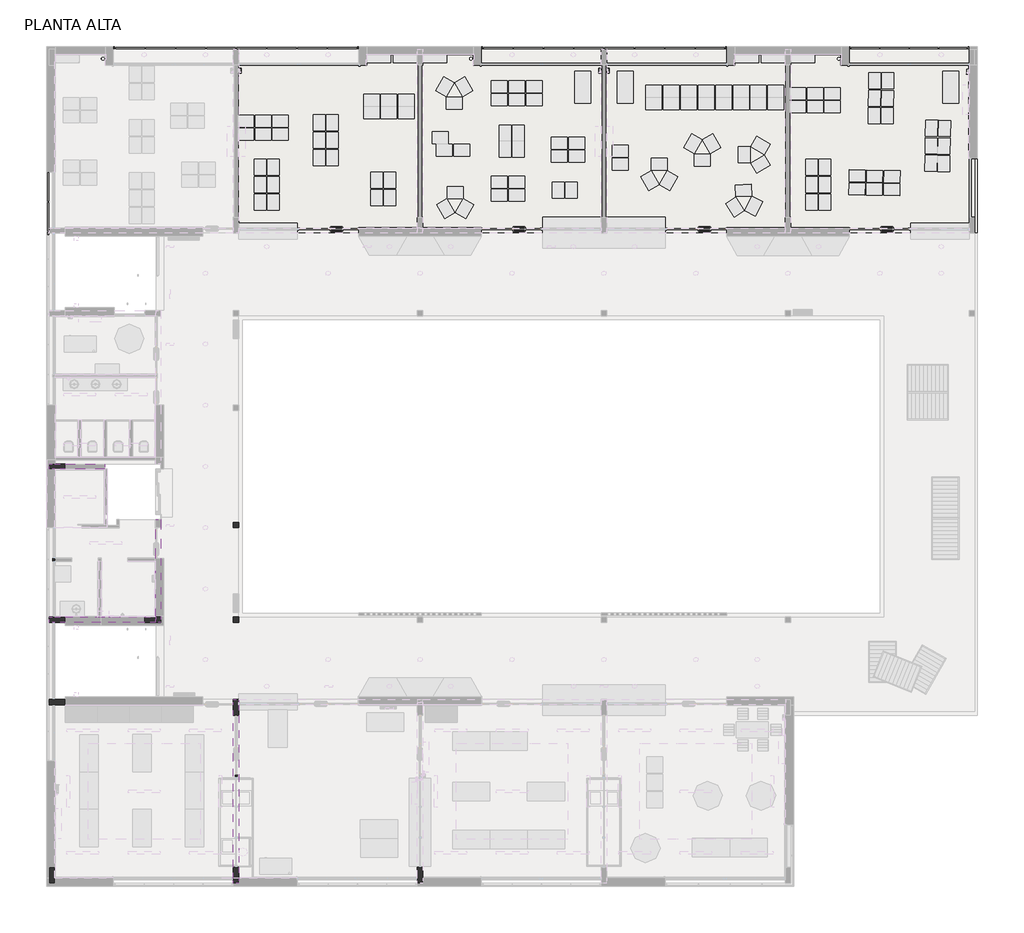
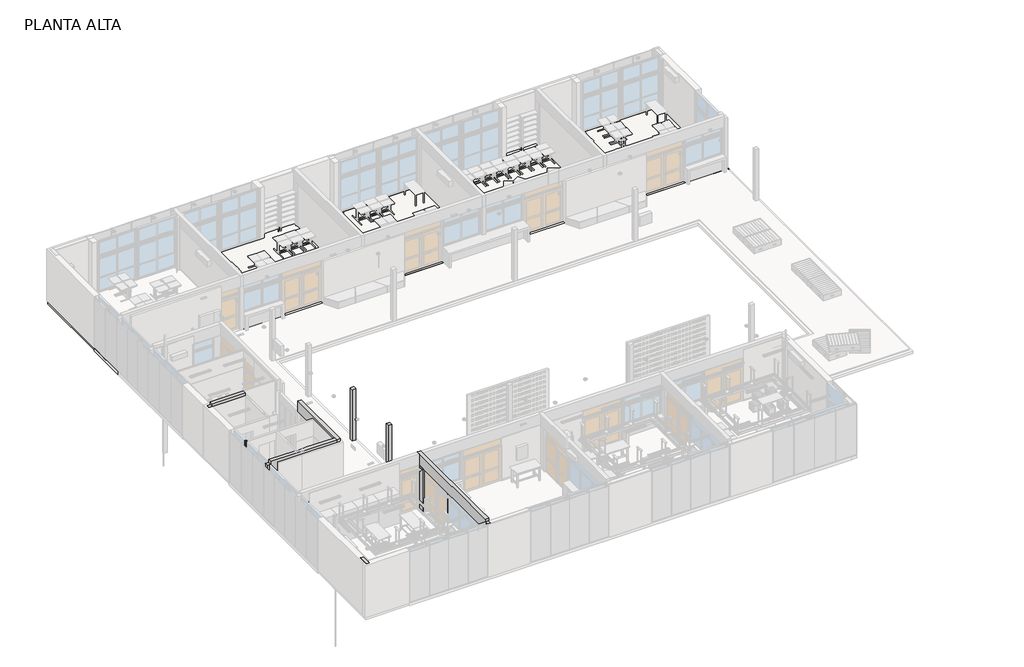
# One storey, part 8 of 14: 12 columns, 6 slabs, 4 beams.
"""IFC4 building model written with IfcOpenShell, lengths in millimetres."""

from ifc_helpers import new_model, si_unit, point, frame, frame_2d, origin, place, context, project, spatial, polyline, circle_curve, trimmed, segment, composite_curve, outline, extrude, faceted_brep, element, save
from ifc_brep_helpers import plane_surface, cylinder_surface, revolved_surface, advanced_brep

model = new_model("IFC4")

# Units and contexts
model_context = context("Model", 3, world=origin())
ifc_project = project(units=[si_unit("LENGTHUNIT", "METRE", prefix="MILLI")], contexts=[model_context])

# Site, building, storey
site = spatial("IfcSite", under=ifc_project)
building = spatial("IfcBuilding", under=site)
storey = spatial("IfcBuildingStorey", under=building, Name="PLANTA ALTA", Elevation=3310.0)

# Beams
placement = place(None, origin())
element("IfcBeam", 1, ObjectType="ARES-I-HA-Viga rectangular-PET : Viga-20x66cm-PET", at=placement, inside=storey, context=model_context, shape_type="Brep", body=[
    faceted_brep([(10288.7173694, 7220.0804035, 5910.0), (10088.7173694, 7220.0804035, 5910.0), (10088.7173694, 7220.0804035, 6410.0), (10088.7173694, 7220.0804035, 6570.0), (10288.7173694, 7220.0804035, 6570.0), (10288.7173694, 7220.0804035, 6410.0), (10088.7173694, 7020.2304035, 6570.0), (10088.7173694, 520.2304035, 6570.0), (10288.7173694, 520.2304035, 6570.0), (10288.7173694, 1302.8495567, 6570.0), (10288.7173694, 1345.2304035, 6570.0), (10288.7173694, 1645.2304035, 6570.0), (10288.7173694, 7020.2304035, 6570.0), (10088.7173694, 7020.2304035, 5910.0), (10088.7173694, 6620.2304035, 5910.0), (10088.7173694, 920.2304035, 5910.0), (10088.7173694, 320.2304035, 5910.0), (10088.7173694, 320.2304035, 6410.0), (10088.7173694, 520.2304035, 6410.0), (10288.7173694, 7020.2304035, 5910.0), (10288.7173694, 6620.2304035, 5910.0), (10288.7173694, 920.2304035, 5910.0), (10288.7173694, 320.2304035, 5910.0), (10288.7173694, 520.2304035, 6410.0), (10288.7173694, 320.2304035, 6410.0)], [[[0, 1, 2, 3, 4, 5]], [[4, 3, 6, 7, 8, 9, 10, 11, 12]], [[1, 13, 14, 15, 16, 17, 18, 7, 6, 3, 2]], [[1, 0, 19, 20, 21, 22, 16, 15, 14, 13]], [[22, 21, 20, 19, 0, 5, 4, 12, 11, 10, 9, 8, 23, 24]], [[16, 22, 24, 17]], [[23, 18, 17, 24]], [[18, 23, 8, 7]]]),
])
element("IfcBeam", 2, ObjectType="ARES-I-HA-Viga rectangular-PET : Viga-20x66cm-PET", at=placement, inside=storey, context=model_context, shape_type="Brep", body=[
    faceted_brep([(7368.7173693, 10120.2304035, 6570.0), (7368.7173693, 13970.2304035, 6570.0), (7168.7173693, 13970.2304035, 6570.0), (7168.7173693, 10320.2304035, 6570.0), (7168.7173693, 10120.2304035, 6570.0), (7168.7173693, 13970.2304035, 5910.0), (7168.7173693, 12520.2304035, 5910.0), (7168.7173693, 10340.2304035, 5910.0), (7168.7173693, 10320.2304035, 5910.0), (7168.7173693, 10120.2304035, 5910.0), (7168.7173693, 10120.2304035, 6410.0), (7168.7173693, 13970.2304035, 6410.0), (7368.7173693, 13970.2304035, 5910.0), (7368.7173693, 12520.2304035, 5910.0), (7368.7173693, 10340.2304035, 5910.0), (7368.7173693, 10320.2304035, 5910.0), (7368.7173693, 10120.2304035, 5910.0), (7368.7173693, 10120.2304035, 6410.0), (7368.7173693, 13970.2304035, 6410.0)], [[[0, 1, 2, 3, 4]], [[5, 6, 7, 8, 9, 10, 4, 3, 2, 11]], [[9, 8, 7, 6, 5, 12, 13, 14, 15, 16]], [[1, 0, 17, 16, 15, 14, 13, 12, 18]], [[0, 4, 10, 9, 16, 17]], [[12, 5, 11, 2, 1, 18]]]),
])
element("IfcBeam", 3, ObjectType="ARES-I-HA-Viga rectangular-PET : Viga-20x66cm-PET", at=placement, inside=storey, context=model_context, shape_type="Brep", body=[
    faceted_brep([(3388.7173693, 10120.2304035, 6570.0), (7168.7173693, 10120.2304035, 6570.0), (7168.7173693, 10320.2304035, 6570.0), (5538.7212045, 10320.2304035, 6570.0), (5418.7212045, 10320.2304035, 6570.0), (5018.7212045, 10320.2304035, 6570.0), (4898.7212045, 10320.2304035, 6570.0), (3388.7173693, 10320.2304035, 6570.0), (3188.7173693, 10120.2304035, 6410.0), (3188.7173693, 10120.2304035, 5910.0), (3788.7173693, 10120.2304035, 5910.0), (5113.7173694, 10120.2304035, 5910.0), (6768.7173693, 10120.2304035, 5910.0), (7168.7173693, 10120.2304035, 5910.0), (3388.7173693, 10120.2304035, 6410.0), (3188.7173693, 10320.2304035, 5910.0), (3788.7173693, 10320.2304035, 5910.0), (5113.7173694, 10320.2304035, 5910.0), (6768.7173693, 10320.2304035, 5910.0), (7168.7173693, 10320.2304035, 5910.0), (3188.7173693, 10320.2304035, 6410.0), (3388.7173693, 10320.2304035, 6410.0), (7168.7173693, 10320.2304035, 6410.0)], [[[0, 1, 2, 3, 4, 5, 6, 7]], [[8, 9, 10, 11, 12, 13, 1, 0, 14]], [[9, 15, 16, 17, 18, 19, 13, 12, 11, 10]], [[15, 20, 21, 7, 6, 5, 4, 3, 2, 22, 19, 18, 17, 16]], [[1, 13, 19, 22, 2]], [[15, 9, 8, 20]], [[14, 21, 20, 8]], [[21, 14, 0, 7]]]),
])
element("IfcBeam", 4, ObjectType="ARES-I-HA-Viga rectangular-PET : Viga-20x66cm-PET", at=placement, inside=storey, context=model_context, shape_type="Brep", body=[
    faceted_brep([(3388.7173693, 15870.2304035, 6570.0), (5268.7173693, 15870.2304035, 6570.0), (5268.7173693, 16070.2304035, 6570.0), (3388.7173693, 16070.2304035, 6570.0), (3188.7173693, 15870.2304035, 6410.0), (3188.7173693, 15870.2304035, 5910.0), (3788.7173693, 15870.2304035, 5910.0), (5268.7173693, 15870.2304035, 5910.0), (5268.7173693, 15870.2304035, 6410.0), (3388.7173693, 15870.2304035, 6410.0), (3188.7173693, 16070.2304035, 5910.0), (3788.7173693, 16070.2304035, 5910.0), (5268.7173693, 16070.2304035, 5910.0), (5268.7173693, 16040.2304035, 5910.0), (3188.7173693, 16070.2304035, 6410.0), (3388.7173693, 16070.2304035, 6410.0)], [[[0, 1, 2, 3]], [[4, 5, 6, 7, 8, 1, 0, 9]], [[5, 10, 11, 12, 13, 7, 6]], [[10, 14, 15, 3, 2, 12, 11]], [[7, 13, 12, 2, 1, 8]], [[10, 5, 4, 14]], [[9, 15, 14, 4]], [[15, 9, 0, 3]]]),
])

# Columns
element("IfcColumn", 5, ObjectType="Parante aluminio : Parante aluminio 75x75 mm", at=placement, inside=storey, context=model_context, shape_type="SweptSolid", body=[
    extrude(outline(polyline([(10226.2173694, 4395.2304035), (10226.2173694, 4320.2304035), (10151.2173694, 4320.2304035), (10151.2173694, 4395.2304035), (10226.2173694, 4395.2304035)])), frame((0.0, 0.0, 3310.0), z_axis=(0.0, 0.0, 1.0), x_axis=(1.0, 0.0, 0.0)), (0.0, 0.0, 1.0), 2650.0),
])
element("IfcColumn", 6, ObjectType="Parante aluminio : Parante aluminio 100x100 mm", at=placement, inside=storey, context=model_context, shape_type="Brep", body=[
    faceted_brep([(3403.7173693, 12520.2304035, 3310.0), (3403.7173693, 12420.2304035, 3310.0), (3303.7173693, 12420.2304035, 3310.0), (3303.7173693, 12520.2304035, 3310.0), (3403.7173693, 12520.2304035, 6420.0), (3403.7173693, 12420.2304035, 6420.0), (3403.7173693, 12420.2304035, 6410.0), (3403.7173693, 12420.2304035, 6400.0), (3403.7173693, 12520.2304035, 6410.0), (3303.7173693, 12420.2304035, 6420.0), (3303.7173693, 12520.2304035, 6420.0)], [[[0, 1, 2, 3]], [[4, 5, 6, 7, 1, 0, 8]], [[5, 9, 2, 1, 7, 6]], [[9, 10, 3, 2]], [[10, 4, 8, 0, 3]], [[4, 10, 9, 5]]]),
])
element("IfcColumn", 7, ObjectType="PIES-RECT-HA-PET : Pilar HA-20x20cm-PET", at=placement, inside=storey, context=model_context, shape_type="SweptSolid", body=[
    extrude(outline(polyline([(10288.7173693, 10320.2304035), (10288.7173693, 10120.2304035), (10088.7173693, 10120.2304035), (10088.7173693, 10320.2304035), (10288.7173693, 10320.2304035)])), frame((0.0, 0.0, 3260.0), z_axis=(0.0, 0.0, 1.0), x_axis=(1.0, 0.0, 0.0)), (0.0, 0.0, 1.0), 3150.0),
])
element("IfcColumn", 8, ObjectType="PIES-RECT-HA-PET : Pilar HA-20x20cm-PET", at=placement, inside=storey, context=model_context, shape_type="SweptSolid", body=[
    extrude(outline(polyline([(10288.7173693, 13870.2304035), (10288.7173693, 13670.2304035), (10088.7173693, 13670.2304035), (10088.7173693, 13870.2304035), (10288.7173693, 13870.2304035)])), frame((0.0, 0.0, 3260.0), z_axis=(0.0, 0.0, 1.0), x_axis=(1.0, 0.0, 0.0)), (0.0, 0.0, 1.0), 3150.0),
])
element("IfcColumn", 9, ObjectType="PIES-RECT-HA-PET : Pilar HA-20x60cm-PET", at=placement, inside=storey, context=model_context, shape_type="Brep", body=[
    faceted_brep([(10288.7173694, 920.2304035, 5910.0), (10088.7173694, 920.2304035, 5910.0), (10088.7173694, 320.2304035, 5910.0), (10288.7173694, 320.2304035, 5910.0), (10288.7173694, 920.2304035, 3260.0), (10288.7173694, 535.2304035, 3260.0), (10288.7173694, 520.2304035, 3260.0), (10288.7173694, 320.2304035, 3260.0), (10088.7173694, 320.2304035, 3260.0), (10088.7173694, 920.2304035, 3260.0), (10088.7173694, 320.2304035, 3760.0), (10288.7173694, 320.2304035, 3760.0)], [[[0, 1, 2, 3]], [[4, 5, 6, 7, 8, 9]], [[1, 0, 4, 9]], [[2, 1, 9, 8, 10]], [[3, 2, 10, 8, 7, 11]], [[0, 3, 11, 7, 6, 5, 4]]]),
])
element("IfcColumn", 10, ObjectType="PIES-RECT-HA-PET : Pilar HA-20x60cm-PET", at=placement, inside=storey, context=model_context, shape_type="Brep", body=[
    faceted_brep([(17188.7173694, 920.2304035, 5910.0), (16988.7173694, 920.2304035, 5910.0), (16988.7173694, 320.2304035, 5910.0), (17188.7173694, 320.2304035, 5910.0), (17188.7173694, 920.2304035, 3260.0), (17188.7173694, 535.2304035, 3260.0), (17188.7173694, 520.2304035, 3260.0), (17188.7173694, 320.2304035, 3260.0), (16988.7173694, 320.2304035, 3260.0), (16988.7173694, 920.2304035, 3260.0), (16988.7173694, 320.2304035, 3760.0), (17188.7173694, 320.2304035, 3760.0)], [[[0, 1, 2, 3]], [[4, 5, 6, 7, 8, 9]], [[1, 0, 4, 9]], [[2, 1, 9, 8, 10]], [[3, 2, 10, 8, 7, 11]], [[0, 3, 11, 7, 6, 5, 4]]]),
])
element("IfcColumn", 11, ObjectType="PIES-RECT-HA-PET : Pilar HA-20x60cm-PET", at=placement, inside=storey, context=model_context, shape_type="Brep", body=[
    faceted_brep([(10288.7173694, 7220.2304035, 5910.0), (10088.7173694, 7220.2304035, 5910.0), (10088.7173694, 6620.2304035, 5910.0), (10288.7173694, 6620.2304035, 5910.0), (10288.7173694, 7220.2304035, 3260.0), (10288.7173694, 7020.2304035, 3260.0), (10288.7173694, 6620.2304035, 3260.0), (10088.7173694, 6620.2304035, 3260.0), (10088.7173694, 7020.2304035, 3260.0), (10088.7173694, 7220.2304035, 3260.0)], [[[0, 1, 2, 3]], [[4, 5, 6, 7, 8, 9]], [[1, 0, 4, 9]], [[2, 1, 9, 8, 7]], [[3, 2, 7, 6]], [[0, 3, 6, 5, 4]]]),
])
element("IfcColumn", 12, ObjectType="PIES-RECT-HA-PET : Pilar HA-20x60cm-PET", at=placement, inside=storey, context=model_context, shape_type="Brep", body=[
    faceted_brep([(3388.7173693, 920.2304035, 6410.0), (3188.7173693, 920.2304035, 6410.0), (3188.7173693, 535.2304035, 6410.0), (3188.7173693, 320.2304035, 6410.0), (3388.7173693, 320.2304035, 6410.0), (3388.7173693, 520.2304035, 6410.0), (3388.7173693, 535.2304035, 6410.0), (3388.7173693, 920.2304035, 3260.0), (3388.7173693, 535.2304035, 3260.0), (3388.7173693, 520.2304035, 3260.0), (3388.7173693, 320.2304035, 3260.0), (3188.7173693, 320.2304035, 3260.0), (3188.7173693, 535.2304035, 3260.0), (3188.7173693, 920.2304035, 3260.0), (3388.7173693, 320.2304035, 3760.0)], [[[0, 1, 2, 3, 4, 5, 6]], [[7, 8, 9, 10, 11, 12, 13]], [[1, 0, 7, 13]], [[3, 2, 1, 13, 12, 11]], [[4, 3, 11, 10, 14]], [[0, 6, 5, 4, 14, 10, 9, 8, 7]]]),
])
element("IfcColumn", 13, ObjectType="PIES-RECT-HA-PET : Pilar HA-60x20cm-PET", at=placement, inside=storey, context=model_context, shape_type="Brep", body=[
    faceted_brep([(7368.7173693, 10320.2304035, 5910.0), (7168.7173693, 10320.2304035, 5910.0), (6768.7173693, 10320.2304035, 5910.0), (6768.7173693, 10120.2304035, 5910.0), (7368.7173693, 10120.2304035, 5910.0), (7368.7173693, 10320.2304035, 3260.0), (7368.7173693, 10120.2304035, 3260.0), (6768.7173693, 10120.2304035, 3260.0), (6768.7173693, 10320.2304035, 3260.0)], [[[0, 1, 2, 3, 4]], [[5, 6, 7, 8]], [[2, 1, 0, 5, 8]], [[3, 2, 8, 7]], [[4, 3, 7, 6]], [[0, 4, 6, 5]]]),
])
element("IfcColumn", 14, ObjectType="PIES-RECT-HA-PET : Pilar HA-60x20cm-PET", at=placement, inside=storey, context=model_context, shape_type="SweptSolid", body=[
    extrude(outline(polyline([(3788.7173693, 7220.2304035), (3788.7173693, 7020.2304035), (3188.7173693, 7020.2304035), (3188.7173693, 7220.2304035), (3788.7173693, 7220.2304035)])), frame((0.0, 0.0, 3260.0), z_axis=(0.0, 0.0, 1.0), x_axis=(1.0, 0.0, 0.0)), (0.0, 0.0, 1.0), 2650.0),
])
element("IfcColumn", 15, ObjectType="PIES-RECT-HA-PET : Pilar HA-60x20cm-PET", at=placement, inside=storey, context=model_context, shape_type="Brep", body=[
    faceted_brep([(3788.7173693, 10320.2304035, 5910.0), (3188.7173693, 10320.2304035, 5910.0), (3188.7173693, 10120.2304035, 5910.0), (3788.7173693, 10120.2304035, 5910.0), (3788.7173693, 10320.2304035, 3260.0), (3788.7173693, 10120.2304035, 3260.0), (3388.7173693, 10120.2304035, 3260.0), (3188.7173693, 10120.2304035, 3260.0), (3188.7173693, 10320.2304035, 3260.0), (3388.7173693, 10320.2304035, 3260.0)], [[[0, 1, 2, 3]], [[4, 5, 6, 7, 8, 9]], [[1, 0, 4, 9, 8]], [[2, 1, 8, 7]], [[3, 2, 7, 6, 5]], [[0, 3, 5, 4]]]),
])
element("IfcColumn", 16, ObjectType="PIES-RECT-HA-PET : Pilar HA-60x20cm-PET", at=placement, inside=storey, context=model_context, shape_type="Brep", body=[
    faceted_brep([(3788.7173693, 16070.2304035, 5910.0), (3188.7173693, 16070.2304035, 5910.0), (3188.7173693, 15870.2304035, 5910.0), (3788.7173693, 15870.2304035, 5910.0), (3788.7173693, 16040.2304035, 5910.0), (3788.7173693, 16070.2304035, 3260.0), (3788.7173693, 16040.2304035, 3260.0), (3788.7173693, 15870.2304035, 3260.0), (3403.7173694, 15870.2304035, 3260.0), (3388.7173693, 15870.2304035, 3260.0), (3188.7173693, 15870.2304035, 3260.0), (3188.7173693, 16070.2304035, 3260.0), (3388.7173693, 16070.2304035, 3260.0), (3403.7173694, 16070.2304035, 3260.0)], [[[0, 1, 2, 3, 4]], [[5, 6, 7, 8, 9, 10, 11, 12, 13]], [[1, 0, 5, 13, 12, 11]], [[2, 1, 11, 10]], [[3, 2, 10, 9, 8, 7]], [[0, 4, 3, 7, 6, 5]]]),
])

# Slabs
element("IfcSlab", 17, ObjectType="C20 MONOLITICO 30x30 5cm", at=placement, inside=storey, context=model_context, shape_type="SweptSolid", body=[
    extrude(outline(polyline([(15088.7173693, 31430.2304035), (16988.7173693, 31430.2304035), (16988.7173693, 31020.2304035), (17188.7173694, 31020.2304035), (17188.7173694, 31430.2304035), (19088.7173693, 31430.2304035), (19088.7173693, 31020.2304035), (19388.7173693, 31020.2304035), (28888.7173693, 31020.2304035), (28888.7173693, 31430.2304035), (30788.7173693, 31430.2304035), (30788.7173693, 31020.2304035), (30988.7173693, 31020.2304035), (30988.7173693, 31430.2304035), (32888.7173693, 31430.2304035), (32888.7173693, 31020.2304035), (37573.7173693, 31020.2304035), (37673.7173693, 31020.2304035), (37673.7173693, 30900.2304035), (37573.7173693, 30900.2304035), (37573.7173693, 30700.2304035), (37673.7173693, 30700.2304035), (37673.7173693, 27520.2304035), (37688.7173693, 27520.2304035), (37688.7173693, 24720.2304035), (33188.7173693, 24720.2304035), (33188.7173693, 24920.2304035), (30988.7173693, 24920.2304035), (30988.7173693, 25320.2304035), (30788.7173693, 25320.2304035), (30788.7173693, 24920.2304035), (28588.7173693, 24920.2304035), (28588.7173693, 24720.2304035), (24088.7173694, 24720.2304035), (24088.7173694, 25320.2304035), (23888.7173694, 25320.2304035), (23888.7173694, 24720.2304035), (19388.7173694, 24720.2304035), (19388.7173694, 24920.2304035), (17188.7173694, 24920.2304035), (17188.7173694, 25320.2304035), (16988.7173694, 25320.2304035), (16988.7173694, 24920.2304035), (14788.7173694, 24920.2304035), (14788.7173694, 24720.2304035), (10288.7173694, 24720.2304035), (10288.7173694, 25320.2304035), (10123.7173694, 25320.2304035), (10123.7173694, 31020.2304035), (15088.7173693, 31020.2304035), (15088.7173693, 31430.2304035)]), holes=[composite_curve([segment(trimmed(circle_curve(frame_2d((32797.5018286, 31271.4893538)), 50.0), [point((32747.5018286, 31271.4893538))], [point((32847.5018286, 31271.4893538))], True, "CARTESIAN"), True, "CONTINUOUS"), segment(trimmed(circle_curve(frame_2d((32797.5018286, 31271.4893538)), 50.0), [point((32847.5018286, 31271.4893538))], [point((32747.5018286, 31271.4893538))], True, "CARTESIAN"), True, "CONTINUOUS")], self_intersect=False), composite_curve([segment(trimmed(circle_curve(frame_2d((18997.5018286, 31271.4893538)), 50.0), [point((18947.5018286, 31271.4893538))], [point((19047.5018286, 31271.4893538))], True, "CARTESIAN"), True, "CONTINUOUS"), segment(trimmed(circle_curve(frame_2d((18997.5018286, 31271.4893538)), 50.0), [point((19047.5018286, 31271.4893538))], [point((18947.5018286, 31271.4893538))], True, "CARTESIAN"), True, "CONTINUOUS")], self_intersect=False), polyline([(10388.7173694, 30920.2304035), (10288.7173694, 30920.2304035), (10288.7173694, 30720.2304035), (10388.7173694, 30720.2304035), (10388.7173694, 30920.2304035)]), polyline([(23888.7173693, 30920.2304035), (23788.7173693, 30920.2304035), (23788.7173693, 30720.2304035), (23888.7173693, 30720.2304035), (23888.7173693, 30920.2304035)]), polyline([(24188.7173693, 30920.2304035), (24088.7173693, 30920.2304035), (24088.7173693, 30720.2304035), (24188.7173693, 30720.2304035), (24188.7173693, 30920.2304035)])]), frame((0.0, 0.0, 3260.0), z_axis=(0.0, 0.0, 1.0), x_axis=(1.0, 0.0, 0.0)), (0.0, 0.0, 1.0), 50.0),
])
element("IfcSlab", 18, ObjectType="Alisado AyP con hidrófugo", at=placement, inside=storey, context=model_context, shape_type="SweptSolid", body=[
    extrude(outline(polyline([(3260.0, 37688.7173693), (3260.0, 37888.7173694), (3280.0, 37888.7173694), (3310.0, 37763.7173693), (3310.0, 37688.7173693), (3260.0, 37688.7173693)])), frame((0.0, 25320.2304035, 0.0), z_axis=(0.0, 1.0, 0.0), x_axis=(0.0, 0.0, 1.0)), (0.0, 0.0, 1.0), 2200.0),
])
element("IfcSlab", 19, ObjectType="C14 ALISADO DE AyP 5cm", at=placement, inside=storey, context=model_context, shape_type="SweptSolid", body=[
    extrude(outline(polyline([(31620.2304035, 3260.0), (31020.2304035, 3260.0), (31020.2304035, 3310.0), (31095.2304035, 3310.0), (31620.2304035, 3280.0), (31620.2304035, 3260.0)])), frame((19388.7173693, 0.0, 0.0), z_axis=(1.0, 0.0, 0.0), x_axis=(0.0, 1.0, 0.0)), (0.0, 0.0, 1.0), 4500.0),
])
element("IfcSlab", 20, ObjectType="C14 ALISADO DE AyP 5cm", at=placement, inside=storey, context=model_context, shape_type="SweptSolid", body=[
    extrude(outline(polyline([(31620.2304035, 3260.0), (31020.2304035, 3260.0), (31020.2304035, 3310.0), (31095.2304035, 3310.0), (31620.2304035, 3280.0), (31620.2304035, 3260.0)])), frame((24088.7173693, 0.0, 0.0), z_axis=(1.0, 0.0, 0.0), x_axis=(0.0, 1.0, 0.0)), (0.0, 0.0, 1.0), 4500.0),
])
element("IfcSlab", 21, ObjectType="C14 ALISADO DE AyP 5cm", at=placement, inside=storey, context=model_context, shape_type="SweptSolid", body=[
    extrude(outline(polyline([(31620.2304035, 3260.0), (31020.2304035, 3260.0), (31020.2304035, 3310.0), (31095.2304035, 3310.0), (31620.2304035, 3280.0), (31620.2304035, 3260.0)])), frame((33188.7173694, 0.0, 0.0), z_axis=(1.0, 0.0, 0.0), x_axis=(0.0, 1.0, 0.0)), (0.0, 0.0, 1.0), 4500.0),
])
element("IfcSlab", 22, ObjectType="LOSA-INT-HA-16cm-PET", at=placement, inside=storey, context=model_context, shape_type="SolidModel", body=[
    advanced_brep(
    [(14788.7173693, 31730.2304035, 3100.0), (14788.7173693, 31680.2304035, 3100.0), (15088.7173693, 31680.2304035, 3100.0), (19088.7173693, 31680.2304035, 3100.0), (19388.7173693, 31680.2304035, 3100.0), (19388.7173693, 31730.2304035, 3100.0), (28588.7173693, 31730.2304035, 3100.0), (28588.7173693, 31680.2304035, 3100.0), (28888.7173693, 31680.2304035, 3100.0), (30993.7173693, 31680.2304035, 3100.0), (31613.7173693, 31680.2304035, 3100.0), (32878.7173693, 31680.2304035, 3100.0), (33188.7173693, 31680.2304035, 3100.0), (33188.7173693, 31730.2304035, 3100.0), (37688.7173693, 31730.2304035, 3100.0), (37688.7173693, 31680.2304035, 3100.0), (37948.7173693, 31680.2304035, 3100.0), (37948.7173693, 31620.2304035, 3100.0), (37948.7173693, 31020.2304035, 3100.0), (37948.7173693, 27520.2304035, 3100.0), (37998.7173693, 27520.2304035, 3100.0), (37998.7173693, 24720.2304035, 3100.0), (37888.7173693, 24720.2304035, 3100.0), (37888.7173693, 27520.2304035, 3100.0), (37888.7173693, 31020.2304035, 3100.0), (37888.7173693, 31620.2304035, 3100.0), (37688.7173693, 31620.2304035, 3100.0), (37688.7173693, 31220.2304035, 3100.0), (30988.7173693, 31220.2304035, 3100.0), (30988.7173693, 31440.2304035, 3100.0), (30988.7173693, 31620.2304035, 3100.0), (30788.7173693, 31620.2304035, 3100.0), (30788.7173693, 31440.2304035, 3100.0), (30788.7173693, 31220.2304035, 3100.0), (28878.7173693, 31220.2304035, 3100.0), (28588.7173693, 31220.2304035, 3100.0), (24088.7173693, 31220.2304035, 3100.0), (24088.7173693, 31620.2304035, 3100.0), (23888.7173693, 31620.2304035, 3100.0), (23888.7173693, 31220.2304035, 3100.0), (19388.7173693, 31220.2304035, 3100.0), (19098.7173693, 31220.2304035, 3100.0), (17188.7173694, 31220.2304035, 3100.0), (17188.7173694, 31440.2304035, 3100.0), (17188.7173694, 31620.2304035, 3100.0), (16988.7173694, 31620.2304035, 3100.0), (16988.7173694, 31440.2304035, 3100.0), (16988.7173694, 31220.2304035, 3100.0), (15078.7173693, 31220.2304035, 3100.0), (14788.7173693, 31220.2304035, 3100.0), (10288.7173694, 31220.2304035, 3100.0), (10288.7173694, 31620.2304035, 3100.0), (10088.7173694, 31620.2304035, 3100.0), (10088.7173694, 31220.2304035, 3100.0), (5588.7173693, 31220.2304035, 3100.0), (5298.7173693, 31220.2304035, 3100.0), (3393.7173694, 31220.2304035, 3100.0), (3388.7173693, 31220.2304035, 3100.0), (3388.7173693, 31620.2304035, 3100.0), (3188.7173693, 31620.2304035, 3100.0), (3188.7173693, 27020.2304035, 3100.0), (3188.7173693, 24720.2304035, 3100.0), (3388.7173694, 24720.2304035, 3100.0), (3388.7173694, 24660.2304035, 3100.0), (3078.7173694, 24660.2304035, 3100.0), (3078.7173694, 27020.2304035, 3100.0), (3128.7173693, 27020.2304035, 3100.0), (3128.7173693, 31680.2304035, 3100.0), (3403.7173694, 31680.2304035, 3100.0), (5288.7173693, 31680.2304035, 3100.0), (5588.7173693, 31680.2304035, 3100.0), (5588.7173693, 31730.2304035, 3100.0), (5147.5018286, 31271.4893538, 3100.0), (5247.5018286, 31271.4893538, 3100.0), (18947.5018286, 31271.4893538, 3100.0), (19047.5018286, 31271.4893538, 3100.0), (32747.5018286, 31271.4893538, 3100.0), (32847.5018286, 31271.4893538, 3100.0), (14788.7173693, 31730.2304035, 3260.0), (5588.7173693, 31730.2304035, 3260.0), (5588.7173693, 31680.2304035, 3260.0), (5288.7173693, 31680.2304035, 3260.0), (3403.7173694, 31680.2304035, 3260.0), (3128.7173693, 31680.2304035, 3260.0), (3128.7173693, 27020.2304035, 3260.0), (3078.7173694, 27020.2304035, 3260.0), (3078.7173694, 24660.2304035, 3260.0), (3388.7173694, 24660.2304035, 3260.0), (3388.7173694, 24720.2304035, 3260.0), (3201.0173694, 24720.2304035, 3260.0), (3188.7173693, 24720.2304035, 3260.0), (3188.7173693, 31020.2304035, 3260.0), (3188.7173693, 31620.2304035, 3260.0), (3388.7173693, 31620.2304035, 3260.0), (3388.7173693, 31220.2304035, 3260.0), (3403.7173694, 31220.2304035, 3260.0), (10088.7173694, 31220.2304035, 3260.0), (10088.7173694, 31620.2304035, 3260.0), (10288.7173694, 31620.2304035, 3260.0), (10288.7173694, 31220.2304035, 3260.0), (16988.7173694, 31220.2304035, 3260.0), (16988.7173694, 31620.2304035, 3260.0), (17188.7173694, 31620.2304035, 3260.0), (17188.7173694, 31220.2304035, 3260.0), (19388.7173693, 31220.2304035, 3260.0), (23888.7173693, 31220.2304035, 3260.0), (23888.7173693, 31620.2304035, 3260.0), (24088.7173693, 31620.2304035, 3260.0), (24088.7173693, 31220.2304035, 3260.0), (30788.7173693, 31220.2304035, 3260.0), (30788.7173693, 31620.2304035, 3260.0), (30988.7173693, 31620.2304035, 3260.0), (30988.7173693, 31220.2304035, 3260.0), (37688.7173693, 31220.2304035, 3260.0), (37688.7173693, 31620.2304035, 3260.0), (37888.7173693, 31620.2304035, 3260.0), (37888.7173693, 24920.2304035, 3260.0), (37888.7173693, 24720.2304035, 3260.0), (37998.7173693, 24720.2304035, 3260.0), (37998.7173693, 27520.2304035, 3260.0), (37948.7173693, 27520.2304035, 3260.0), (37948.7173693, 31020.2304035, 3260.0), (37948.7173693, 31620.2304035, 3260.0), (37948.7173693, 31680.2304035, 3260.0), (37688.7173693, 31680.2304035, 3260.0), (37688.7173693, 31730.2304035, 3260.0), (33188.7173693, 31730.2304035, 3260.0), (33188.7173693, 31680.2304035, 3260.0), (32878.7173693, 31680.2304035, 3260.0), (31613.7173693, 31680.2304035, 3260.0), (30993.7173693, 31680.2304035, 3260.0), (28888.7173693, 31680.2304035, 3260.0), (28588.7173693, 31680.2304035, 3260.0), (28588.7173693, 31730.2304035, 3260.0), (19388.7173693, 31730.2304035, 3260.0), (19388.7173693, 31680.2304035, 3260.0), (19088.7173693, 31680.2304035, 3260.0), (15088.7173693, 31680.2304035, 3260.0), (14788.7173693, 31680.2304035, 3260.0), (5147.5018286, 31271.4893538, 3260.0), (5247.5018286, 31271.4893538, 3260.0), (18947.5018286, 31271.4893538, 3260.0), (19047.5018286, 31271.4893538, 3260.0), (32747.5018286, 31271.4893538, 3260.0), (32847.5018286, 31271.4893538, 3260.0)],
    [
        (0, 1),
        (1, 2),
        (2, 3),
        (3, 4),
        (4, 5),
        (5, 6),
        (6, 7),
        (7, 8),
        (8, 9),
        (9, 10),
        (10, 11),
        (11, 12),
        (12, 13),
        (13, 14),
        (14, 15),
        (15, 16),
        (16, 17),
        (17, 18),
        (18, 19),
        (19, 20),
        (20, 21),
        (21, 22),
        (22, 23),
        (23, 24),
        (24, 25),
        (25, 26),
        (26, 27),
        (27, 28),
        (28, 29),
        (29, 30),
        (30, 31),
        (31, 32),
        (32, 33),
        (33, 34),
        (34, 35),
        (35, 36),
        (36, 37),
        (37, 38),
        (38, 39),
        (39, 40),
        (40, 41),
        (41, 42),
        (42, 43),
        (43, 44),
        (44, 45),
        (45, 46),
        (46, 47),
        (47, 48),
        (48, 49),
        (49, 50),
        (50, 51),
        (51, 52),
        (52, 53),
        (53, 54),
        (54, 55),
        (55, 56),
        (56, 57),
        (57, 58),
        (58, 59),
        (59, 60),
        (60, 61),
        (61, 62),
        (62, 63),
        (63, 64),
        (64, 65),
        (65, 66),
        (66, 67),
        (67, 68),
        (68, 69),
        (69, 70),
        (70, 71),
        (71, 0),
        (72, 73, circle_curve(frame((5197.5018286, 31271.4893538, 3100.0), z_axis=(0.0, 0.0, 1.0), x_axis=(1.0, 0.0, 0.0)), 50.0)),
        (73, 72, circle_curve(frame((5197.5018286, 31271.4893538, 3100.0), z_axis=(0.0, 0.0, 1.0), x_axis=(1.0, 0.0, 0.0)), 50.0)),
        (74, 75, circle_curve(frame((18997.5018286, 31271.4893538, 3100.0), z_axis=(0.0, 0.0, 1.0), x_axis=(1.0, 0.0, 0.0)), 50.0)),
        (75, 74, circle_curve(frame((18997.5018286, 31271.4893538, 3100.0), z_axis=(0.0, 0.0, 1.0), x_axis=(1.0, 0.0, 0.0)), 50.0)),
        (76, 77, circle_curve(frame((32797.5018286, 31271.4893538, 3100.0), z_axis=(0.0, 0.0, 1.0), x_axis=(1.0, 0.0, 0.0)), 50.0)),
        (77, 76, circle_curve(frame((32797.5018286, 31271.4893538, 3100.0), z_axis=(0.0, 0.0, 1.0), x_axis=(1.0, 0.0, 0.0)), 50.0)),
        (78, 79),
        (79, 80),
        (80, 81),
        (81, 82),
        (82, 83),
        (83, 84),
        (84, 85),
        (85, 86),
        (86, 87),
        (87, 88),
        (88, 89),
        (89, 90),
        (90, 91),
        (91, 92),
        (92, 93),
        (93, 94),
        (94, 95),
        (95, 96),
        (96, 97),
        (97, 98),
        (98, 99),
        (99, 100),
        (100, 101),
        (101, 102),
        (102, 103),
        (103, 104),
        (104, 105),
        (105, 106),
        (106, 107),
        (107, 108),
        (108, 109),
        (109, 110),
        (110, 111),
        (111, 112),
        (112, 113),
        (113, 114),
        (114, 115),
        (115, 116),
        (116, 117),
        (117, 118),
        (118, 119),
        (119, 120),
        (120, 121),
        (121, 122),
        (122, 123),
        (123, 124),
        (124, 125),
        (125, 126),
        (126, 127),
        (127, 128),
        (128, 129),
        (129, 130),
        (130, 131),
        (131, 132),
        (132, 133),
        (133, 134),
        (134, 135),
        (135, 136),
        (136, 137),
        (137, 138),
        (138, 78),
        (139, 140, circle_curve(frame((5197.5018286, 31271.4893538, 3260.0), z_axis=(0.0, 0.0, -1.0), x_axis=(1.0, 0.0, 0.0)), 50.0)),
        (140, 139, circle_curve(frame((5197.5018286, 31271.4893538, 3260.0), z_axis=(0.0, 0.0, -1.0), x_axis=(1.0, 0.0, 0.0)), 50.0)),
        (141, 142, circle_curve(frame((18997.5018286, 31271.4893538, 3260.0), z_axis=(0.0, 0.0, -1.0), x_axis=(1.0, 0.0, 0.0)), 50.0)),
        (142, 141, circle_curve(frame((18997.5018286, 31271.4893538, 3260.0), z_axis=(0.0, 0.0, -1.0), x_axis=(1.0, 0.0, 0.0)), 50.0)),
        (143, 144, circle_curve(frame((32797.5018286, 31271.4893538, 3260.0), z_axis=(0.0, 0.0, -1.0), x_axis=(1.0, 0.0, 0.0)), 50.0)),
        (144, 143, circle_curve(frame((32797.5018286, 31271.4893538, 3260.0), z_axis=(0.0, 0.0, -1.0), x_axis=(1.0, 0.0, 0.0)), 50.0)),
        (20, 119),
        (118, 21),
        (66, 84),
        (83, 67),
        (71, 79),
        (78, 0),
        (138, 1),
        (135, 4),
        (134, 5),
        (133, 6),
        (132, 7),
        (127, 12),
        (126, 13),
        (125, 14),
        (80, 70),
        (72, 139),
        (140, 73),
        (74, 141),
        (142, 75),
        (76, 143),
        (144, 77),
        (124, 15),
        (123, 16),
        (120, 19),
        (64, 86),
        (85, 65),
        (117, 22),
        (115, 25),
        (114, 26),
        (113, 27),
        (112, 28),
        (111, 30),
        (110, 31),
        (109, 33),
        (108, 36),
        (107, 37),
        (106, 38),
        (105, 39),
        (104, 40),
        (103, 42),
        (102, 44),
        (101, 45),
        (100, 47),
        (99, 50),
        (98, 51),
        (97, 52),
        (96, 53),
        (94, 57),
        (93, 58),
        (92, 59),
        (90, 61),
        (88, 62),
        (87, 63),
    ],
    [
        plane_surface(frame((14788.7173693, 31730.2304035, 3100.0), z_axis=(0.0, 0.0, -1.0), x_axis=(0.0, -1.0, 0.0))),
        plane_surface(frame((14788.7173693, 31730.2304035, 3260.0), z_axis=(0.0, 0.0, 1.0), x_axis=(0.0, 1.0, 0.0))),
        plane_surface(frame((37998.7173693, 27520.2304035, 3100.0), z_axis=(1.0, 0.0, 0.0), x_axis=(0.0, 0.0, 1.0))),
        plane_surface(frame((3128.7173693, 27020.2304035, 3100.0), z_axis=(-1.0, 0.0, 0.0), x_axis=(0.0, 0.0, 1.0))),
        plane_surface(frame((5588.7173693, 31730.2304035, 3100.0), z_axis=(0.0, 1.0, 0.0), x_axis=(0.0, 0.0, 1.0))),
        plane_surface(frame((14788.7173693, 31730.2304035, 3100.0), z_axis=(1.0, 0.0, 0.0), x_axis=(0.0, 0.0, 1.0))),
        plane_surface(frame((14788.7173693, 31680.2304035, 3100.0), z_axis=(0.0, 1.0, 0.0), x_axis=(0.0, 0.0, 1.0))),
        plane_surface(frame((19388.7173693, 31680.2304035, 3100.0), z_axis=(-1.0, 0.0, 0.0), x_axis=(0.0, 0.0, 1.0))),
        plane_surface(frame((19388.7173693, 31730.2304035, 3100.0), z_axis=(0.0, 1.0, 0.0), x_axis=(0.0, 0.0, 1.0))),
        plane_surface(frame((28588.7173693, 31730.2304035, 3100.0), z_axis=(1.0, 0.0, 0.0), x_axis=(0.0, 0.0, 1.0))),
        plane_surface(frame((28588.7173693, 31680.2304035, 3100.0), z_axis=(0.0, 1.0, 0.0), x_axis=(0.0, 0.0, 1.0))),
        plane_surface(frame((33188.7173693, 31680.2304035, 3100.0), z_axis=(-1.0, 0.0, 0.0), x_axis=(0.0, 0.0, 1.0))),
        plane_surface(frame((33188.7173693, 31730.2304035, 3100.0), z_axis=(0.0, 1.0, 0.0), x_axis=(0.0, 0.0, 1.0))),
        plane_surface(frame((3128.7173693, 31680.2304035, 3100.0), z_axis=(0.0, 1.0, 0.0), x_axis=(0.0, 0.0, 1.0))),
        plane_surface(frame((5588.7173693, 31680.2304035, 3100.0), z_axis=(-1.0, 0.0, 0.0), x_axis=(0.0, 0.0, 1.0))),
        revolved_surface(polyline([(5247.5018286, 31271.4893538, 3260.0), (5247.5018286, 31271.4893538, 3100.0)]), (5197.5018286, 31271.4893538, 3310.0), (0.0, 0.0, 1.0)),
        revolved_surface(polyline([(19047.5018286, 31271.4893538, 3260.0), (19047.5018286, 31271.4893538, 3100.0)]), (18997.5018286, 31271.4893538, 3310.0), (0.0, 0.0, 1.0)),
        revolved_surface(polyline([(32847.5018286, 31271.4893538, 3260.0), (32847.5018286, 31271.4893538, 3100.0)]), (32797.5018286, 31271.4893538, 3310.0), (0.0, 0.0, 1.0)),
        plane_surface(frame((37688.7173693, 31730.2304035, 3100.0), z_axis=(1.0, 0.0, 0.0), x_axis=(0.0, 0.0, 1.0))),
        plane_surface(frame((37688.7173693, 31680.2304035, 3100.0), z_axis=(0.0, 1.0, 0.0), x_axis=(0.0, 0.0, 1.0))),
        plane_surface(frame((37948.7173693, 31680.2304035, 3100.0), z_axis=(1.0, 0.0, 0.0), x_axis=(0.0, 0.0, 1.0))),
        plane_surface(frame((37948.7173693, 27520.2304035, 3100.0), z_axis=(0.0, 1.0, 0.0), x_axis=(0.0, 0.0, 1.0))),
        plane_surface(frame((3078.7173694, 24660.2304035, 3100.0), z_axis=(-1.0, 0.0, 0.0), x_axis=(0.0, 0.0, 1.0))),
        plane_surface(frame((3078.7173694, 27020.2304035, 3100.0), z_axis=(0.0, 1.0, 0.0), x_axis=(0.0, 0.0, 1.0))),
        plane_surface(frame((37998.7173693, 24720.2304035, 3100.0), z_axis=(0.0, -1.0, 0.0), x_axis=(0.0, 0.0, 1.0))),
        plane_surface(frame((37888.7173693, 24720.2304035, 3100.0), z_axis=(-1.0, 0.0, 0.0), x_axis=(0.0, 0.0, 1.0))),
        plane_surface(frame((37888.7173693, 31620.2304035, 3100.0), z_axis=(0.0, -1.0, 0.0), x_axis=(0.0, 0.0, 1.0))),
        plane_surface(frame((37688.7173693, 31620.2304035, 3100.0), z_axis=(1.0, 0.0, 0.0), x_axis=(0.0, 0.0, 1.0))),
        plane_surface(frame((37688.7173693, 31220.2304035, 3100.0), z_axis=(0.0, -1.0, 0.0), x_axis=(0.0, 0.0, 1.0))),
        plane_surface(frame((30988.7173693, 31220.2304035, 3100.0), z_axis=(-1.0, 0.0, 0.0), x_axis=(0.0, 0.0, 1.0))),
        plane_surface(frame((30988.7173693, 31620.2304035, 3100.0), z_axis=(0.0, -1.0, 0.0), x_axis=(0.0, 0.0, 1.0))),
        plane_surface(frame((30788.7173693, 31620.2304035, 3100.0), z_axis=(1.0, 0.0, 0.0), x_axis=(0.0, 0.0, 1.0))),
        plane_surface(frame((30788.7173693, 31220.2304035, 3100.0), z_axis=(0.0, -1.0, 0.0), x_axis=(0.0, 0.0, 1.0))),
        plane_surface(frame((24088.7173693, 31220.2304035, 3100.0), z_axis=(-1.0, 0.0, 0.0), x_axis=(0.0, 0.0, 1.0))),
        plane_surface(frame((24088.7173693, 31620.2304035, 3100.0), z_axis=(0.0, -1.0, 0.0), x_axis=(0.0, 0.0, 1.0))),
        plane_surface(frame((23888.7173693, 31620.2304035, 3100.0), z_axis=(1.0, 0.0, 0.0), x_axis=(0.0, 0.0, 1.0))),
        plane_surface(frame((23888.7173693, 31220.2304035, 3100.0), z_axis=(0.0, -1.0, 0.0), x_axis=(0.0, 0.0, 1.0))),
        plane_surface(frame((19388.7173693, 31220.2304035, 3100.0), z_axis=(0.0, -1.0, 0.0), x_axis=(0.0, 0.0, 1.0))),
        plane_surface(frame((17188.7173694, 31220.2304035, 3100.0), z_axis=(-1.0, 0.0, 0.0), x_axis=(0.0, 0.0, 1.0))),
        plane_surface(frame((17188.7173694, 31620.2304035, 3100.0), z_axis=(0.0, -1.0, 0.0), x_axis=(0.0, 0.0, 1.0))),
        plane_surface(frame((16988.7173694, 31620.2304035, 3100.0), z_axis=(1.0, 0.0, 0.0), x_axis=(0.0, 0.0, 1.0))),
        plane_surface(frame((16988.7173694, 31220.2304035, 3100.0), z_axis=(0.0, -1.0, 0.0), x_axis=(0.0, 0.0, 1.0))),
        plane_surface(frame((10288.7173694, 31220.2304035, 3100.0), z_axis=(-1.0, 0.0, 0.0), x_axis=(0.0, 0.0, 1.0))),
        plane_surface(frame((10288.7173694, 31620.2304035, 3100.0), z_axis=(0.0, -1.0, 0.0), x_axis=(0.0, 0.0, 1.0))),
        plane_surface(frame((10088.7173694, 31620.2304035, 3100.0), z_axis=(1.0, 0.0, 0.0), x_axis=(0.0, 0.0, 1.0))),
        plane_surface(frame((10088.7173694, 31220.2304035, 3100.0), z_axis=(0.0, -1.0, 0.0), x_axis=(0.0, 0.0, 1.0))),
        plane_surface(frame((3388.7173693, 31220.2304035, 3100.0), z_axis=(-1.0, 0.0, 0.0), x_axis=(0.0, 0.0, 1.0))),
        plane_surface(frame((3388.7173693, 31620.2304035, 3100.0), z_axis=(0.0, -1.0, 0.0), x_axis=(0.0, 0.0, 1.0))),
        plane_surface(frame((3188.7173693, 31620.2304035, 3100.0), z_axis=(1.0, 0.0, 0.0), x_axis=(0.0, 0.0, 1.0))),
        plane_surface(frame((3188.7173693, 24720.2304035, 3100.0), z_axis=(0.0, 1.0, 0.0), x_axis=(0.0, 0.0, 1.0))),
        plane_surface(frame((3388.7173694, 24720.2304035, 3100.0), z_axis=(1.0, 0.0, 0.0), x_axis=(0.0, 0.0, 1.0))),
        plane_surface(frame((3388.7173694, 24660.2304035, 3100.0), z_axis=(0.0, -1.0, 0.0), x_axis=(0.0, 0.0, 1.0))),
    ],
    [
        (0, [[1, 2, 3, 4, 5, 6, 7, 8, 9, 10, 11, 12, 13, 14, 15, 16, 17, 18, 19, 20, 21, 22, 23, 24, 25, 26, 27, 28, 29, 30, 31, 32, 33, 34, 35, 36, 37, 38, 39, 40, 41, 42, 43, 44, 45, 46, 47, 48, 49, 50, 51, 52, 53, 54, 55, 56, 57, 58, 59, 60, 61, 62, 63, 64, 65, 66, 67, 68, 69, 70, 71, 72], [73, 74], [75, 76], [77, 78]]),
        (1, [[79, 80, 81, 82, 83, 84, 85, 86, 87, 88, 89, 90, 91, 92, 93, 94, 95, 96, 97, 98, 99, 100, 101, 102, 103, 104, 105, 106, 107, 108, 109, 110, 111, 112, 113, 114, 115, 116, 117, 118, 119, 120, 121, 122, 123, 124, 125, 126, 127, 128, 129, 130, 131, 132, 133, 134, 135, 136, 137, 138, 139], [140, 141], [142, 143], [144, 145]]),
        (2, [[-21, 146, -119, 147]]),
        (3, [[-67, 148, -84, 149]]),
        (4, [[-72, 150, -79, 151]]),
        (5, [[-1, -151, -139, 152]]),
        (6, [[-4, -3, -2, -152, -138, -137, -136, 153]]),
        (7, [[-5, -153, -135, 154]]),
        (8, [[-6, -154, -134, 155]]),
        (9, [[-7, -155, -133, 156]]),
        (10, [[-12, -11, -10, -9, -8, -156, -132, -131, -130, -129, -128, 157]]),
        (11, [[-13, -157, -127, 158]]),
        (12, [[-14, -158, -126, 159]]),
        (13, [[-70, -69, -68, -149, -83, -82, -81, 160]]),
        (14, [[-71, -160, -80, -150]]),
        (15, [[-73, 161, -141, 162]]),
        (15, [[-74, -162, -140, -161]]),
        (16, [[-75, 163, -143, 164]]),
        (16, [[-76, -164, -142, -163]]),
        (17, [[-77, 165, -145, 166]]),
        (17, [[-78, -166, -144, -165]]),
        (18, [[-15, -159, -125, 167]]),
        (19, [[-16, -167, -124, 168]]),
        (20, [[-19, -18, -17, -168, -123, -122, -121, 169]]),
        (21, [[-20, -169, -120, -146]]),
        (22, [[-65, 170, -86, 171]]),
        (23, [[-66, -171, -85, -148]]),
        (24, [[-22, -147, -118, 172]]),
        (25, [[-25, -24, -23, -172, -117, -116, 173]]),
        (26, [[-26, -173, -115, 174]]),
        (27, [[-27, -174, -114, 175]]),
        (28, [[-28, -175, -113, 176]]),
        (29, [[-30, -29, -176, -112, 177]]),
        (30, [[-31, -177, -111, 178]]),
        (31, [[-33, -32, -178, -110, 179]]),
        (32, [[-36, -35, -34, -179, -109, 180]]),
        (33, [[-37, -180, -108, 181]]),
        (34, [[-38, -181, -107, 182]]),
        (35, [[-39, -182, -106, 183]]),
        (36, [[-40, -183, -105, 184]]),
        (37, [[-42, -41, -184, -104, 185]]),
        (38, [[-44, -43, -185, -103, 186]]),
        (39, [[-45, -186, -102, 187]]),
        (40, [[-47, -46, -187, -101, 188]]),
        (41, [[-50, -49, -48, -188, -100, 189]]),
        (42, [[-51, -189, -99, 190]]),
        (43, [[-52, -190, -98, 191]]),
        (44, [[-53, -191, -97, 192]]),
        (45, [[-57, -56, -55, -54, -192, -96, -95, 193]]),
        (46, [[-58, -193, -94, 194]]),
        (47, [[-59, -194, -93, 195]]),
        (48, [[-61, -60, -195, -92, -91, 196]]),
        (49, [[-62, -196, -90, -89, 197]]),
        (50, [[-63, -197, -88, 198]]),
        (51, [[-64, -198, -87, -170]]),
    ],
),
    advanced_brep(
    [(3475.2882287, 607.130086, 3100.0), (3575.2882287, 607.130086, 3100.0), (3475.2882287, 607.130086, 3260.0), (3575.2882287, 607.130086, 3260.0)],
    [
        (0, 1, circle_curve(frame((3525.2882287, 607.130086, 3100.0), z_axis=(0.0, 0.0, -1.0), x_axis=(1.0, 0.0, 0.0)), 50.0)),
        (1, 0, circle_curve(frame((3525.2882287, 607.130086, 3100.0), z_axis=(0.0, 0.0, -1.0), x_axis=(1.0, 0.0, 0.0)), 50.0)),
        (2, 3, circle_curve(frame((3525.2882287, 607.130086, 3260.0), z_axis=(0.0, 0.0, 1.0), x_axis=(1.0, 0.0, 0.0)), 50.0)),
        (3, 2, circle_curve(frame((3525.2882287, 607.130086, 3260.0), z_axis=(0.0, 0.0, 1.0), x_axis=(1.0, 0.0, 0.0)), 50.0)),
        (0, 2),
        (3, 1),
    ],
    [
        plane_surface(frame((14788.7173693, 31730.2304035, 3100.0), z_axis=(0.0, 0.0, -1.0), x_axis=(0.0, -1.0, 0.0))),
        plane_surface(frame((14788.7173693, 31730.2304035, 3260.0), z_axis=(0.0, 0.0, 1.0), x_axis=(0.0, 1.0, 0.0))),
        cylinder_surface(frame((3525.2882287, 607.130086, 3310.0), z_axis=(0.0, 0.0, -1.0), x_axis=(1.0, 0.0, 0.0)), 50.0),
    ],
    [
        (0, [[1, 2]]),
        (1, [[3, 4]]),
        (2, [[-1, 5, -4, 6]]),
        (2, [[-2, -6, -3, -5]]),
    ],
),
    advanced_brep(
    [(17255.2882287, 607.130086, 3100.0), (17355.2882287, 607.130086, 3100.0), (17255.2882287, 607.130086, 3260.0), (17355.2882287, 607.130086, 3260.0)],
    [
        (0, 1, circle_curve(frame((17305.2882287, 607.130086, 3100.0), z_axis=(0.0, 0.0, -1.0), x_axis=(1.0, 0.0, 0.0)), 50.0)),
        (1, 0, circle_curve(frame((17305.2882287, 607.130086, 3100.0), z_axis=(0.0, 0.0, -1.0), x_axis=(1.0, 0.0, 0.0)), 50.0)),
        (2, 3, circle_curve(frame((17305.2882287, 607.130086, 3260.0), z_axis=(0.0, 0.0, 1.0), x_axis=(1.0, 0.0, 0.0)), 50.0)),
        (3, 2, circle_curve(frame((17305.2882287, 607.130086, 3260.0), z_axis=(0.0, 0.0, 1.0), x_axis=(1.0, 0.0, 0.0)), 50.0)),
        (0, 2),
        (3, 1),
    ],
    [
        plane_surface(frame((14788.7173693, 31730.2304035, 3100.0), z_axis=(0.0, 0.0, -1.0), x_axis=(0.0, -1.0, 0.0))),
        plane_surface(frame((14788.7173693, 31730.2304035, 3260.0), z_axis=(0.0, 0.0, 1.0), x_axis=(0.0, 1.0, 0.0))),
        cylinder_surface(frame((17305.2882287, 607.130086, 3310.0), z_axis=(0.0, 0.0, -1.0), x_axis=(1.0, 0.0, 0.0)), 50.0),
    ],
    [
        (0, [[1, 2]]),
        (1, [[3, 4]]),
        (2, [[-1, 5, -4, 6]]),
        (2, [[-2, -6, -3, -5]]),
    ],
),
    advanced_brep(
    [(24115.2882287, 607.130086, 3100.0), (24215.2882287, 607.130086, 3100.0), (24115.2882287, 607.130086, 3260.0), (24215.2882287, 607.130086, 3260.0)],
    [
        (0, 1, circle_curve(frame((24165.2882287, 607.130086, 3100.0), z_axis=(0.0, 0.0, -1.0), x_axis=(1.0, 0.0, 0.0)), 50.0)),
        (1, 0, circle_curve(frame((24165.2882287, 607.130086, 3100.0), z_axis=(0.0, 0.0, -1.0), x_axis=(1.0, 0.0, 0.0)), 50.0)),
        (2, 3, circle_curve(frame((24165.2882287, 607.130086, 3260.0), z_axis=(0.0, 0.0, 1.0), x_axis=(1.0, 0.0, 0.0)), 50.0)),
        (3, 2, circle_curve(frame((24165.2882287, 607.130086, 3260.0), z_axis=(0.0, 0.0, 1.0), x_axis=(1.0, 0.0, 0.0)), 50.0)),
        (0, 2),
        (3, 1),
    ],
    [
        plane_surface(frame((14788.7173693, 31730.2304035, 3100.0), z_axis=(0.0, 0.0, -1.0), x_axis=(0.0, -1.0, 0.0))),
        plane_surface(frame((14788.7173693, 31730.2304035, 3260.0), z_axis=(0.0, 0.0, 1.0), x_axis=(0.0, 1.0, 0.0))),
        cylinder_surface(frame((24165.2882287, 607.130086, 3310.0), z_axis=(0.0, 0.0, -1.0), x_axis=(1.0, 0.0, 0.0)), 50.0),
    ],
    [
        (0, [[1, 2]]),
        (1, [[3, 4]]),
        (2, [[-1, 5, -4, 6]]),
        (2, [[-2, -6, -3, -5]]),
    ],
),
    faceted_brep([(10088.7173693, 30920.2304035, 3100.0), (9988.7173694, 30920.2304035, 3100.0), (9988.7173694, 30720.2304035, 3100.0), (10088.7173693, 30720.2304035, 3100.0), (10088.7173693, 24920.2304035, 3100.0), (8938.7173694, 24920.2304035, 3100.0), (3788.7173693, 24920.2304035, 3100.0), (3388.7173693, 24920.2304035, 3100.0), (3388.7173693, 27020.2304035, 3100.0), (3388.7173693, 31020.2304035, 3100.0), (3393.7173694, 31020.2304035, 3100.0), (10088.7173693, 31020.2304035, 3100.0), (10088.7173693, 30920.2304035, 3260.0), (10088.7173693, 31020.2304035, 3260.0), (3403.7173694, 31020.2304035, 3260.0), (3388.7173693, 31020.2304035, 3260.0), (3388.7173693, 24920.2304035, 3260.0), (10088.7173693, 24920.2304035, 3260.0), (10088.7173693, 30720.2304035, 3260.0), (9988.7173694, 30720.2304035, 3260.0), (9988.7173694, 30920.2304035, 3260.0)], [[[0, 1, 2, 3, 4, 5, 6, 7, 8, 9, 10, 11]], [[12, 13, 14, 15, 16, 17, 18, 19, 20]], [[1, 0, 12, 20]], [[2, 1, 20, 19]], [[3, 2, 19, 18]], [[4, 3, 18, 17]], [[7, 6, 5, 4, 17, 16]], [[9, 8, 7, 16, 15]], [[11, 10, 9, 15, 14, 13]], [[0, 11, 13, 12]]]),
    faceted_brep([(10388.7173694, 30920.2304035, 3100.0), (10288.7173694, 30920.2304035, 3100.0), (10288.7173694, 31020.2304035, 3100.0), (16988.7173694, 31020.2304035, 3100.0), (16988.7173694, 24920.2304035, 3100.0), (10288.7173694, 24920.2304035, 3100.0), (10288.7173694, 30720.2304035, 3100.0), (10388.7173694, 30720.2304035, 3100.0), (10388.7173694, 30920.2304035, 3260.0), (10388.7173694, 30720.2304035, 3260.0), (10288.7173694, 30720.2304035, 3260.0), (10288.7173694, 24920.2304035, 3260.0), (16988.7173694, 24920.2304035, 3260.0), (16988.7173694, 31020.2304035, 3260.0), (10288.7173694, 31020.2304035, 3260.0), (10288.7173694, 30920.2304035, 3260.0)], [[[0, 1, 2, 3, 4, 5, 6, 7]], [[8, 9, 10, 11, 12, 13, 14, 15]], [[1, 0, 8, 15]], [[7, 6, 10, 9]], [[0, 7, 9, 8]], [[2, 1, 15, 14]], [[3, 2, 14, 13]], [[4, 3, 13, 12]], [[5, 4, 12, 11]], [[6, 5, 11, 10]]]),
    faceted_brep([(23888.7173694, 30920.2304035, 3100.0), (23788.7173693, 30920.2304035, 3100.0), (23788.7173693, 30720.2304035, 3100.0), (23888.7173694, 30720.2304035, 3100.0), (23888.7173694, 24920.2304035, 3100.0), (17188.7173694, 24920.2304035, 3100.0), (17188.7173694, 31020.2304035, 3100.0), (23888.7173694, 31020.2304035, 3100.0), (23888.7173694, 30920.2304035, 3260.0), (23888.7173694, 31020.2304035, 3260.0), (17188.7173694, 31020.2304035, 3260.0), (17188.7173694, 24920.2304035, 3260.0), (23888.7173694, 24920.2304035, 3260.0), (23888.7173694, 30720.2304035, 3260.0), (23788.7173693, 30720.2304035, 3260.0), (23788.7173693, 30920.2304035, 3260.0)], [[[0, 1, 2, 3, 4, 5, 6, 7]], [[8, 9, 10, 11, 12, 13, 14, 15]], [[1, 0, 8, 15]], [[2, 1, 15, 14]], [[3, 2, 14, 13]], [[4, 3, 13, 12]], [[5, 4, 12, 11]], [[6, 5, 11, 10]], [[7, 6, 10, 9]], [[0, 7, 9, 8]]]),
    faceted_brep([(24188.7173693, 30920.2304035, 3100.0), (24088.7173694, 30920.2304035, 3100.0), (24088.7173694, 31020.2304035, 3100.0), (30788.7173693, 31020.2304035, 3100.0), (30788.7173693, 24920.2304035, 3100.0), (24088.7173694, 24920.2304035, 3100.0), (24088.7173694, 30720.2304035, 3100.0), (24188.7173693, 30720.2304035, 3100.0), (24188.7173693, 30920.2304035, 3260.0), (24188.7173693, 30720.2304035, 3260.0), (24088.7173694, 30720.2304035, 3260.0), (24088.7173694, 24920.2304035, 3260.0), (30788.7173693, 24920.2304035, 3260.0), (30788.7173693, 31020.2304035, 3260.0), (24088.7173694, 31020.2304035, 3260.0), (24088.7173694, 30920.2304035, 3260.0)], [[[0, 1, 2, 3, 4, 5, 6, 7]], [[8, 9, 10, 11, 12, 13, 14, 15]], [[1, 0, 8, 15]], [[7, 6, 10, 9]], [[0, 7, 9, 8]], [[2, 1, 15, 14]], [[3, 2, 14, 13]], [[4, 3, 13, 12]], [[5, 4, 12, 11]], [[6, 5, 11, 10]]]),
    faceted_brep([(37573.7173693, 30900.2304035, 3100.0), (37573.7173693, 30700.2304035, 3100.0), (37673.7173693, 30700.2304035, 3100.0), (37683.7173693, 30700.2304035, 3100.0), (37688.7173693, 30700.2304035, 3100.0), (37688.7173693, 27520.2304035, 3100.0), (37688.7173693, 24920.2304035, 3100.0), (30988.7173693, 24920.2304035, 3100.0), (30988.7173693, 31020.2304035, 3100.0), (37683.7173693, 31020.2304035, 3100.0), (37688.7173693, 31020.2304035, 3100.0), (37688.7173693, 30900.2304035, 3100.0), (37683.7173693, 30900.2304035, 3100.0), (37673.7173693, 30900.2304035, 3100.0), (37573.7173693, 30900.2304035, 3260.0), (37673.7173693, 30900.2304035, 3260.0), (37688.7173693, 30900.2304035, 3260.0), (37688.7173693, 31020.2304035, 3260.0), (30988.7173693, 31020.2304035, 3260.0), (30988.7173693, 24920.2304035, 3260.0), (37688.7173693, 24920.2304035, 3260.0), (37688.7173693, 30700.2304035, 3260.0), (37673.7173693, 30700.2304035, 3260.0), (37573.7173693, 30700.2304035, 3260.0)], [[[0, 1, 2, 3, 4, 5, 6, 7, 8, 9, 10, 11, 12, 13]], [[14, 15, 16, 17, 18, 19, 20, 21, 22, 23]], [[1, 0, 14, 23]], [[4, 3, 2, 1, 23, 22, 21]], [[6, 5, 4, 21, 20]], [[7, 6, 20, 19]], [[8, 7, 19, 18]], [[10, 9, 8, 18, 17]], [[11, 10, 17, 16]], [[0, 13, 12, 11, 16, 15, 14]]]),
    faceted_brep([(3838.7173694, 24660.2304035, 3100.0), (3838.7173694, 24720.2304035, 3100.0), (7188.7173693, 24720.2304035, 3100.0), (7188.7173693, 24660.2304035, 3100.0), (3838.7173694, 24660.2304035, 3260.0), (7188.7173693, 24660.2304035, 3260.0), (7188.7173693, 24720.2304035, 3260.0), (3838.7173694, 24720.2304035, 3260.0)], [[[0, 1, 2, 3]], [[4, 5, 6, 7]], [[0, 3, 5, 4]], [[3, 2, 6, 5]], [[1, 0, 4, 7]], [[2, 1, 7, 6]]]),
])

save(model, "model.ifc")
